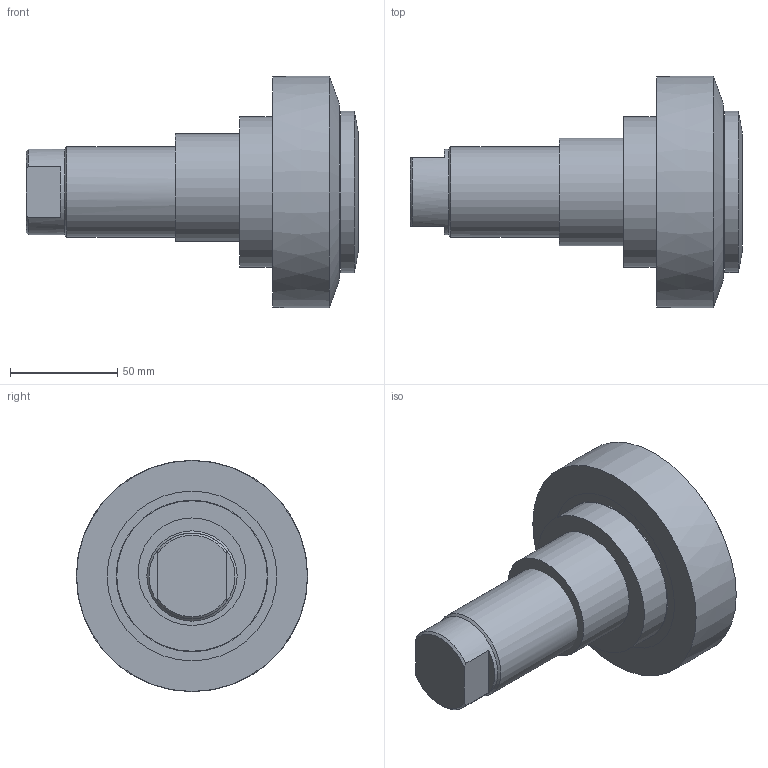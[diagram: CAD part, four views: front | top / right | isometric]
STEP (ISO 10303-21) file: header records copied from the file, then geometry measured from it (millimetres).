
FILE_DESCRIPTION(/* description */ ('-','CAx-IF Rec.Pracs.---Representation and Presentation of Product Manufacturing Information (PMI)---4.0---2014-10-13'),/* implementation_level */ '2;1');
FILE_NAME(/* name */ 'c:\temp\59951542-72e5-4733-a613-915bd354a4f3\275500a2-8c91-479f-8325-5ccf94afe7ba.stp',/* time_stamp */ '2020-05-28T13:33:30+02:00',/* author */ ('-'),/* organization */ ('NTI CADcenter A/S'),/* preprocessor_version */ 'ST-DEVELOPER v18',/* originating_system */ 'Autodesk Inventor 2020',/* authorisation */ '-');
FILE_SCHEMA (('AP242_MANAGED_MODEL_BASED_3D_ENGINEERING_MIM_LF { 1 0 10303 442 1 1 4 }'));
Length unit declared in the file: millimetre
Products named in the file (1): TR 110.1360E_Kontur
Bounding box: 154.5 x 107.69 x 107.7 mm (x, y, z)
Volume: 859378.5 mm3; surface area: 126813.1 mm2
Topology: 8 solids, 8 shells, 53 faces, 110 edges, 80 vertices
Faces by surface type: plane 29, cylinder 16, cone 7, bspline 1
Full cylindrical faces by diameter (mm): 40 x1, 42 x1, 47.8 x1, 50 x1, 63 x1, 69.3 x1, 70 x1, 70.5 x1, 71.6 x1, 75 x1, 77 x2, 79 x2
Entity records: 1665 total; most frequent: CARTESIAN_POINT 342, DIRECTION 279, ORIENTED_EDGE 220, AXIS2_PLACEMENT_3D 122, EDGE_CURVE 110, VERTEX_POINT 80, CIRCLE 69, STYLED_ITEM 61
